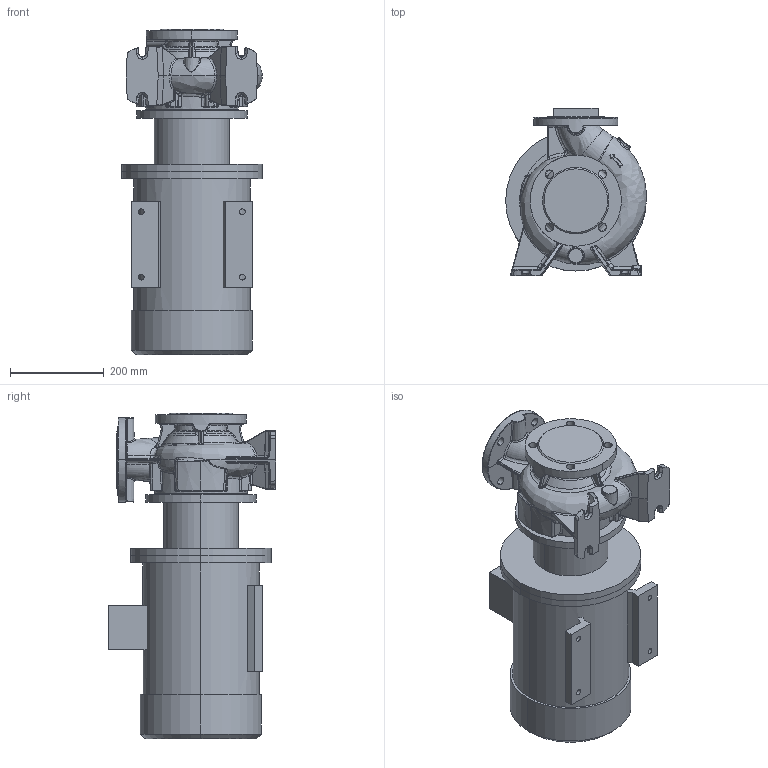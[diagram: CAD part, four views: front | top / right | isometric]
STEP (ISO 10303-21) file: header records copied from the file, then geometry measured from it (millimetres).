
FILE_DESCRIPTION (( 'STEP AP203' ), '1' );
FILE_NAME ('KRM 80-65-125-2-5,5.STEP', '2026-05-07T12:21:37', ( '' ), ( '' ), 'SwSTEP 2.0', 'SolidWorks 2016', '' );
FILE_SCHEMA (( 'CONFIG_CONTROL_DESIGN' ));
Length unit declared in the file: millimetre
Products named in the file (1): KRM 80-65-125-2-5,5
Bounding box: 300.65 x 358 x 696.3 mm (x, y, z)
Volume: 32734365.6 mm3; surface area: 1308727.7 mm2
Topology: 4 solids, 4 shells, 1009 faces, 2411 edges, 1414 vertices
Faces by surface type: bspline 488, cylinder 225, plane 159, cone 67, torus 63, sphere 7
Entity records: 58604 total; most frequent: CARTESIAN_POINT 39113, ORIENTED_EDGE 4782, DIRECTION 3151, EDGE_CURVE 2391, VERTEX_POINT 1414, AXIS2_PLACEMENT_3D 1331, EDGE_LOOP 1057, FACE_OUTER_BOUND 1009
